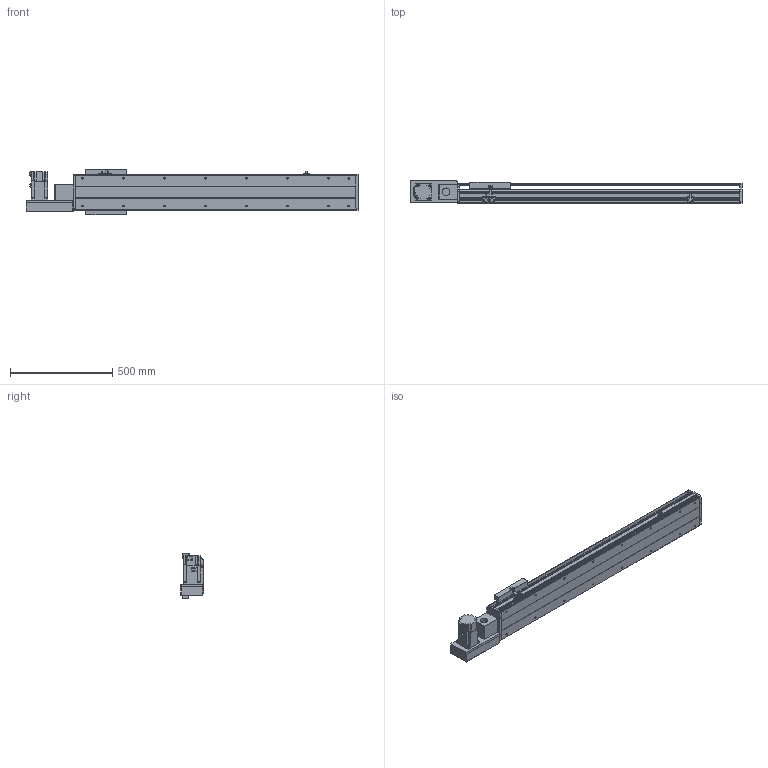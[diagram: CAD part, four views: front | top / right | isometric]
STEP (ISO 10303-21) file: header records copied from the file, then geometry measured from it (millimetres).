
FILE_DESCRIPTION(/* description */ ('STEP AP214'),/* implementation_level */ '2;1');
FILE_NAME(/* name */ 'PBS200-P40-S1000-L-T75-C1-N(0)',/* time_stamp */ '2022-06-11T07:48:41+02:00',/* author */ ('License CC BY-ND 4.0'),/* organization */ ('CADENAS'),/* preprocessor_version */ 'ST-DEVELOPER v18.102',/* originating_system */ 'PARTsolutions',/* authorisation */ ' ');
FILE_SCHEMA (('AUTOMOTIVE_DESIGN {1 0 10303 214 3 1 1}'));
Length unit declared in the file: millimetre
Products named in the file (7): PBS200-P40-S1000-L-T75-C1-N(0); PBS200_sensor; PBS200_plant; PBS200_sliser; T75-p1; PBS200T-L_motors; PBS200-S1000()_body
Assembly tree (8 placements, depth 2):
  PBS200-P40-S1000-L-T75-C1-N(0)
    PBS200_sensor  x3
    PBS200_plant
    PBS200_sliser
    T75-p1
    PBS200T-L_motors
    PBS200-S1000()_body
Bounding box: 1622 x 109 x 221 mm (x, y, z)
Volume: 11237140 mm3; surface area: 1819633 mm2
Topology: 8 solids, 8 shells, 920 faces, 2374 edges, 1548 vertices
Faces by surface type: plane 574, cylinder 298, cone 48
Full cylindrical faces by diameter (mm): 2.459 x6, 3.242 x4, 4.5 x6, 4.917 x4, 5 x6, 6 x7, 6.6 x8, 6.647 x20, 8 x6, 10 x4, 12 x8, 38 x2, 40 x1, 70 x1
Entity records: 24581 total; most frequent: DIRECTION 4327, CARTESIAN_POINT 4192, ORIENTED_EDGE 3982, EDGE_CURVE 1991, AXIS2_PLACEMENT_3D 1507, VERTEX_POINT 1372, LINE 1313, VECTOR 1313
